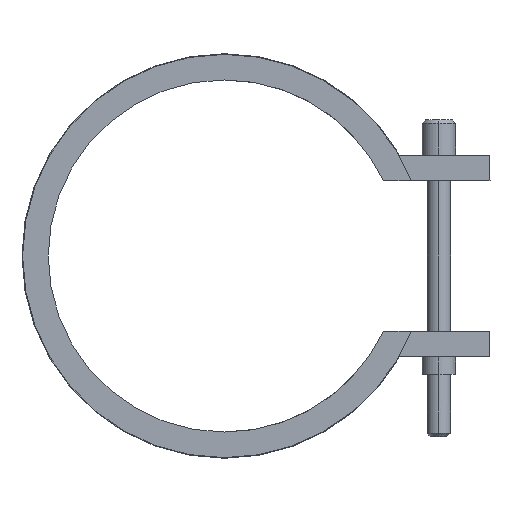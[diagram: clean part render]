
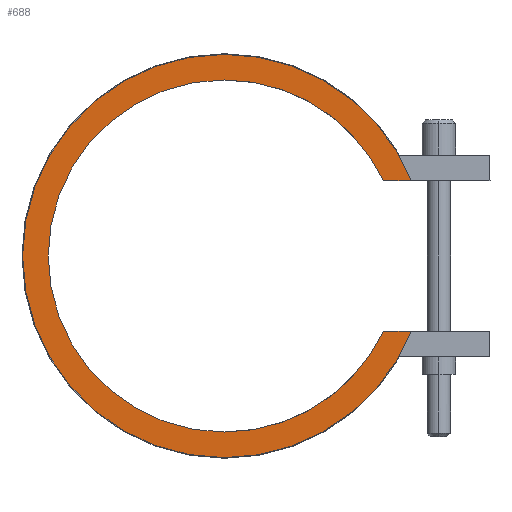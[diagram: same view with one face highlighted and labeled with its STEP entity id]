
A CAD part, left-side view. The second image highlights one B-rep face of the part: STEP entity #688.
In plain terms, the highlighted planar face has unit normal (-1, 0, 0).
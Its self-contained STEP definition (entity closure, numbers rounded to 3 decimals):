
#299=CARTESIAN_POINT('Axis2P3D Location',(-25.,0.,0.)) ;
#303=CARTESIAN_POINT('Vertex',(-25.,-24.863,-11.75)) ;
#305=CARTESIAN_POINT('Vertex',(-25.,0.,-27.5)) ;
#352=CARTESIAN_POINT('Line Origine',(-25.,-27.045,-11.75)) ;
#356=CARTESIAN_POINT('Vertex',(-25.,-29.226,-11.75)) ;
#404=CARTESIAN_POINT('Vertex',(-25.,-24.863,11.75)) ;
#407=CARTESIAN_POINT('Axis2P3D Location',(-25.,0.,0.)) ;
#411=CARTESIAN_POINT('Vertex',(-25.,0.,27.5)) ;
#432=CARTESIAN_POINT('Axis2P3D Location',(-25.,0.,0.)) ;
#647=CARTESIAN_POINT('Axis2P3D Location',(-25.,0.,0.)) ;
#652=CARTESIAN_POINT('Line Origine',(-25.,-27.045,11.75)) ;
#656=CARTESIAN_POINT('Vertex',(-25.,-29.226,11.75)) ;
#659=CARTESIAN_POINT('Axis2P3D Location',(-25.,0.,0.)) ;
#663=CARTESIAN_POINT('Vertex',(-25.,0.,31.5)) ;
#666=CARTESIAN_POINT('Axis2P3D Location',(-25.,0.,0.)) ;
#670=CARTESIAN_POINT('Vertex',(-25.,0.,-31.5)) ;
#673=CARTESIAN_POINT('Axis2P3D Location',(-25.,0.,0.)) ;
#300=DIRECTION('Axis2P3D Direction',(1.,0.,-0.)) ;
#353=DIRECTION('Vector Direction',(0.,1.,0.)) ;
#408=DIRECTION('Axis2P3D Direction',(1.,0.,-0.)) ;
#433=DIRECTION('Axis2P3D Direction',(1.,0.,-0.)) ;
#648=DIRECTION('Axis2P3D Direction',(1.,0.,0.)) ;
#649=DIRECTION('Axis2P3D XDirection',(0.,0.,-1.)) ;
#653=DIRECTION('Vector Direction',(0.,-1.,0.)) ;
#660=DIRECTION('Axis2P3D Direction',(1.,0.,0.)) ;
#667=DIRECTION('Axis2P3D Direction',(1.,0.,0.)) ;
#674=DIRECTION('Axis2P3D Direction',(1.,0.,0.)) ;
#301=AXIS2_PLACEMENT_3D('Circle Axis2P3D',#299,#300,$) ;
#409=AXIS2_PLACEMENT_3D('Circle Axis2P3D',#407,#408,$) ;
#434=AXIS2_PLACEMENT_3D('Circle Axis2P3D',#432,#433,$) ;
#650=AXIS2_PLACEMENT_3D('Plane Axis2P3D',#647,#648,#649) ;
#661=AXIS2_PLACEMENT_3D('Circle Axis2P3D',#659,#660,$) ;
#668=AXIS2_PLACEMENT_3D('Circle Axis2P3D',#666,#667,$) ;
#675=AXIS2_PLACEMENT_3D('Circle Axis2P3D',#673,#674,$) ;
#679=ORIENTED_EDGE('',*,*,#358,.T.) ;
#680=ORIENTED_EDGE('',*,*,#307,.T.) ;
#681=ORIENTED_EDGE('',*,*,#436,.T.) ;
#682=ORIENTED_EDGE('',*,*,#413,.T.) ;
#683=ORIENTED_EDGE('',*,*,#658,.T.) ;
#684=ORIENTED_EDGE('',*,*,#665,.F.) ;
#685=ORIENTED_EDGE('',*,*,#672,.F.) ;
#686=ORIENTED_EDGE('',*,*,#677,.F.) ;
#354=VECTOR('Line Direction',#353,1.) ;
#654=VECTOR('Line Direction',#653,1.) ;
#688=ADVANCED_FACE('14055050',(#687),#651,.F.) ;
#302=CIRCLE('generated circle',#301,27.5) ;
#410=CIRCLE('generated circle',#409,27.5) ;
#435=CIRCLE('generated circle',#434,27.5) ;
#662=CIRCLE('generated circle',#661,31.5) ;
#669=CIRCLE('generated circle',#668,31.5) ;
#676=CIRCLE('generated circle',#675,31.5) ;
#307=EDGE_CURVE('',#304,#306,#302,.T.) ;
#358=EDGE_CURVE('',#357,#304,#355,.T.) ;
#413=EDGE_CURVE('',#412,#405,#410,.T.) ;
#436=EDGE_CURVE('',#306,#412,#435,.T.) ;
#658=EDGE_CURVE('',#405,#657,#655,.T.) ;
#665=EDGE_CURVE('',#664,#657,#662,.T.) ;
#672=EDGE_CURVE('',#671,#664,#669,.T.) ;
#677=EDGE_CURVE('',#357,#671,#676,.T.) ;
#678=EDGE_LOOP('',(#679,#680,#681,#682,#683,#684,#685,#686)) ;
#687=FACE_OUTER_BOUND('',#678,.T.) ;
#355=LINE('Line',#352,#354) ;
#655=LINE('Line',#652,#654) ;
#651=PLANE('Plane',#650) ;
#304=VERTEX_POINT('',#303) ;
#306=VERTEX_POINT('',#305) ;
#357=VERTEX_POINT('',#356) ;
#405=VERTEX_POINT('',#404) ;
#412=VERTEX_POINT('',#411) ;
#657=VERTEX_POINT('',#656) ;
#664=VERTEX_POINT('',#663) ;
#671=VERTEX_POINT('',#670) ;
